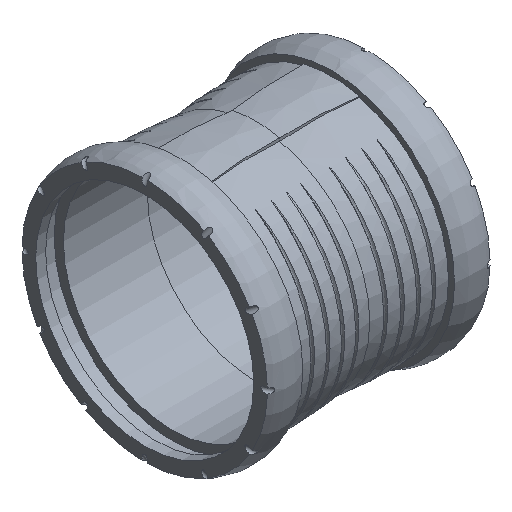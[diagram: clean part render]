
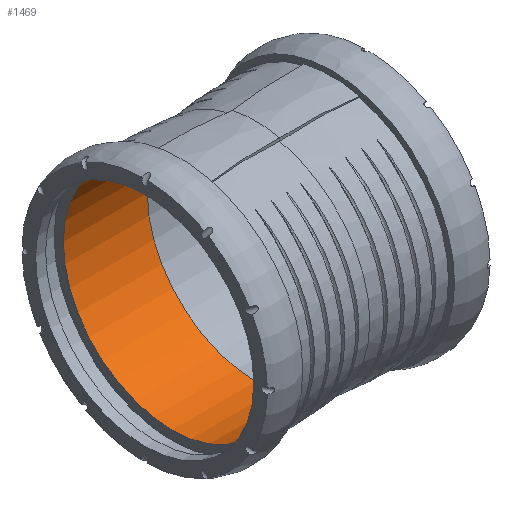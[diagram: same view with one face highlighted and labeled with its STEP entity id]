
A CAD part, isometric view. The second image highlights one B-rep face of the part: STEP entity #1469.
In plain terms, the highlighted cylindrical face has radius 80.6 mm (diameter 161.2 mm), a full revolution.
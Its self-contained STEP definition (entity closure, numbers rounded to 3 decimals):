
#68=CYLINDRICAL_SURFACE('',#1598,80.6);
#178=FACE_OUTER_BOUND('',#469,.T.);
#350=FACE_BOUND('',#470,.T.);
#469=EDGE_LOOP('',(#1276));
#470=EDGE_LOOP('',(#1277));
#502=CIRCLE('',#1539,80.6);
#530=CIRCLE('',#1597,80.6);
#606=VERTEX_POINT('',#4537);
#680=VERTEX_POINT('',#7217);
#782=EDGE_CURVE('',#606,#606,#502,.T.);
#882=EDGE_CURVE('',#680,#680,#530,.T.);
#1276=ORIENTED_EDGE('',*,*,#782,.F.);
#1277=ORIENTED_EDGE('',*,*,#882,.T.);
#1469=ADVANCED_FACE('',(#178,#350),#68,.F.);
#1539=AXIS2_PLACEMENT_3D('',#4538,#1728,#1729);
#1597=AXIS2_PLACEMENT_3D('',#7218,#1844,#1845);
#1598=AXIS2_PLACEMENT_3D('',#7219,#1846,#1847);
#1728=DIRECTION('center_axis',(-1.,0.,0.));
#1729=DIRECTION('ref_axis',(0.,0.,
1.));
#1844=DIRECTION('center_axis',(-1.,0.,0.));
#1845=DIRECTION('ref_axis',(0.,0.,
-1.));
#1846=DIRECTION('center_axis',(-1.,0.,0.));
#1847=DIRECTION('ref_axis',(0.,-1.,0.));
#4537=CARTESIAN_POINT('',(0.,0.,
-80.6));
#4538=CARTESIAN_POINT('Origin',(0.,0.,
0.));
#7217=CARTESIAN_POINT('',(-62.22,-80.6,0.));
#7218=CARTESIAN_POINT('Origin',(-62.22,0.,
0.));
#7219=CARTESIAN_POINT('Origin',(-34.86,0.,
0.));
